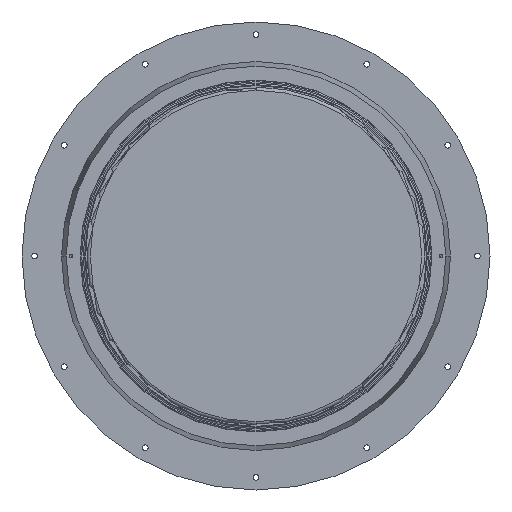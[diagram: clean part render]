
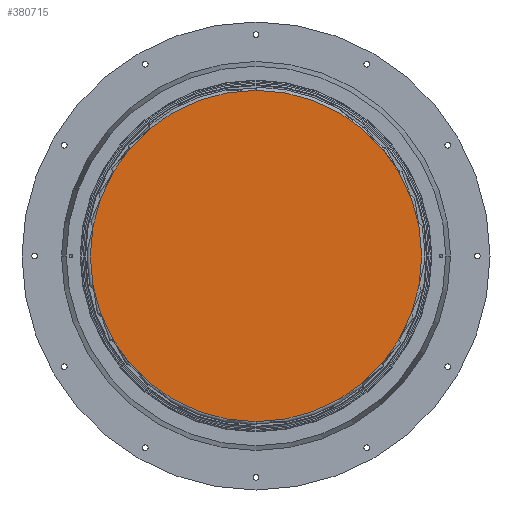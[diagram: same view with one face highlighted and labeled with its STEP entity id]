
A CAD part, front view. The second image highlights one B-rep face of the part: STEP entity #380715.
In plain terms, the highlighted planar face has unit normal (0, -1, 0).
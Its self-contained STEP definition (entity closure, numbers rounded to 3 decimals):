
#15914 = CARTESIAN_POINT ( 'NONE',  ( -524., 0., 500000. ) ) ;
#25444 = CARTESIAN_POINT ( 'NONE',  ( 0., 0., -524. ) ) ;
#71308 = DIRECTION ( 'NONE',  ( -1., 0., 0. ) ) ;
#98746 = DIRECTION ( 'NONE',  ( 0., -1., 0. ) ) ;
#141150 = VERTEX_POINT ( 'NONE', #25444 ) ;
#153105 = ORIENTED_EDGE ( 'NONE', *, *, #684113, .T. ) ;
#172655 = ORIENTED_EDGE ( 'NONE', *, *, #668993, .T. ) ;
#225646 = DIRECTION ( 'NONE',  ( 0., -1., 0. ) ) ;
#291773 = CIRCLE ( 'NONE', #321545, 524. ) ;
#321545 = AXIS2_PLACEMENT_3D ( 'NONE', #428746, #98746, #484107 ) ;
#341167 = PLANE ( 'NONE',  #660382 ) ;
#380715 = ADVANCED_FACE ( 'NONE', ( #420401 ), #341167, .F. ) ;
#398409 = VERTEX_POINT ( 'NONE', #439426 ) ;
#399970 = AXIS2_PLACEMENT_3D ( 'NONE', #555536, #225646, #610971 ) ;
#401328 = DIRECTION ( 'NONE',  ( 0., 1., 0. ) ) ;
#420401 = FACE_OUTER_BOUND ( 'NONE', #422073, .T. ) ;
#422073 = EDGE_LOOP ( 'NONE', ( #172655, #153105 ) ) ;
#428746 = CARTESIAN_POINT ( 'NONE',  ( 0., 0., 0. ) ) ;
#439426 = CARTESIAN_POINT ( 'NONE',  ( 0., 0., 524. ) ) ;
#484107 = DIRECTION ( 'NONE',  ( 0., 0., 1. ) ) ;
#503217 = CIRCLE ( 'NONE', #399970, 524. ) ;
#555536 = CARTESIAN_POINT ( 'NONE',  ( 0., 0., 0. ) ) ;
#610971 = DIRECTION ( 'NONE',  ( 0., 0., 1. ) ) ;
#660382 = AXIS2_PLACEMENT_3D ( 'NONE', #15914, #401328, #71308 ) ;
#668993 = EDGE_CURVE ( 'NONE', #398409, #141150, #291773, .T. ) ;
#684113 = EDGE_CURVE ( 'NONE', #141150, #398409, #503217, .T. ) ;
